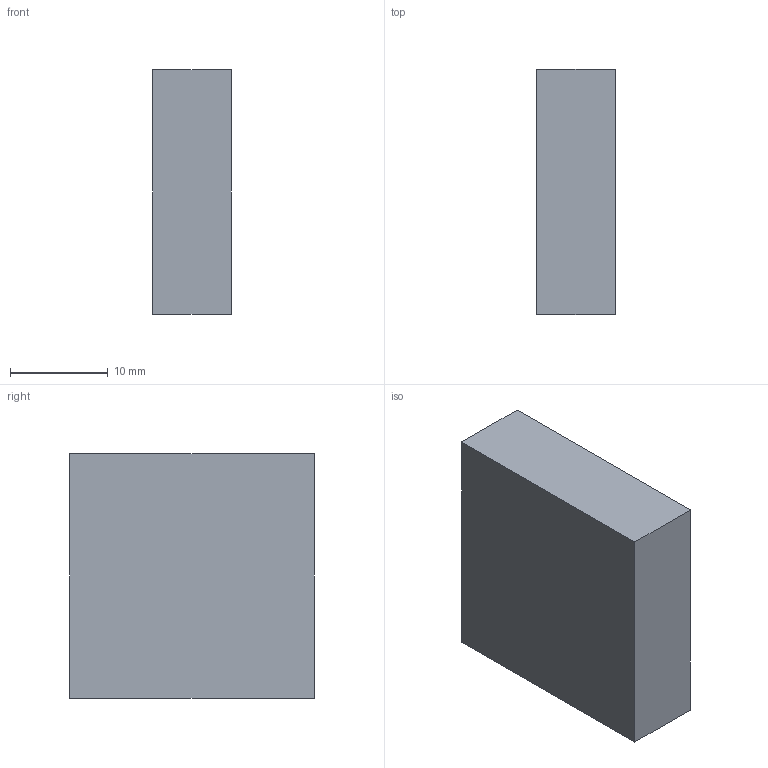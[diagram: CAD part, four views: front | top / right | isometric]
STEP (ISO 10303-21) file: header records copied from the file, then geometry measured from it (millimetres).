
FILE_DESCRIPTION(('Open CASCADE Model'),'2;1');
FILE_NAME('Open CASCADE Shape Model','2026-10-10T15:34:58',('Author'),( 'Open CASCADE'),'Open CASCADE STEP processor 7.9','Open CASCADE 7.9' ,'Unknown');
FILE_SCHEMA(('AUTOMOTIVE_DESIGN { 1 0 10303 214 1 1 1 1 }'));
Length unit declared in the file: millimetre
Products named in the file (1): Open CASCADE STEP translator 7.9 21
Bounding box: 8 x 25 x 25 mm (x, y, z)
Volume: 5000 mm3; surface area: 2050 mm2
Topology: 1 solids, 1 shells, 6 faces, 12 edges, 8 vertices
Faces by surface type: plane 6
Entity records: 322 total; most frequent: CARTESIAN_POINT 51, DIRECTION 50, LINE 36, VECTOR 36, ORIENTED_EDGE 24, PCURVE 24, DEFINITIONAL_REPRESENTATION 24, EDGE_CURVE 12
